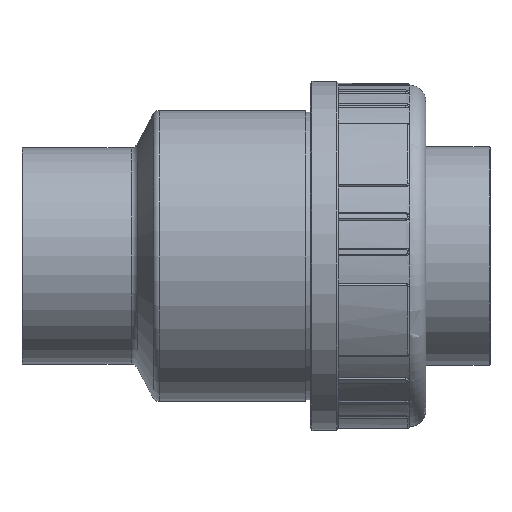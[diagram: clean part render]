
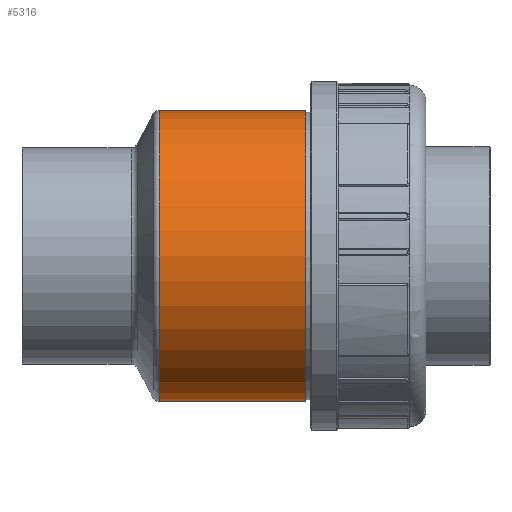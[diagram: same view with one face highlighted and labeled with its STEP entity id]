
A CAD part, left-side view. The second image highlights one B-rep face of the part: STEP entity #5316.
In plain terms, the highlighted cylindrical face has radius 87.5 mm (diameter 175 mm), a full revolution.
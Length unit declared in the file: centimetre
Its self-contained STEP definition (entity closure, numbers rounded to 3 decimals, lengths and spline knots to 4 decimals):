
#221=FACE_BOUND('',#1218,.T.);
#222=FACE_BOUND('',#1219,.T.);
#889=FACE_OUTER_BOUND('',#1217,.T.);
#1217=EDGE_LOOP('',(#3602));
#1218=EDGE_LOOP('',(#3603));
#1219=EDGE_LOOP('',(#3604));
#1526=B_SPLINE_CURVE_WITH_KNOTS('',3,(#8238,#8239,#8240,#8241,#8242,#8243,
#8244,#8245,#8246,#8247,#8248,#8249,#8250,#8251,#8252,#8253,#8254,#8255),
 .UNSPECIFIED.,.T.,.F.,(4,1,1,1,1,1,1,1,1,1,1,1,1,1,1,4),(-14.7908,
-13.7343,-12.6778,-11.6213,-10.5648,
-9.5084,-8.4519,-7.7476,-7.0432,
-6.3389,-4.9303,-4.2259,-3.1695,
-2.113,-1.0565,0.),.UNSPECIFIED.);
#1769=CIRCLE('',#5726,8.75);
#1770=CIRCLE('',#5728,8.75);
#2104=VERTEX_POINT('',#8232);
#2105=VERTEX_POINT('',#8235);
#2106=VERTEX_POINT('',#8237);
#2666=EDGE_CURVE('',#2104,#2104,#1769,.T.);
#2667=EDGE_CURVE('',#2105,#2105,#1770,.T.);
#2668=EDGE_CURVE('',#2106,#2106,#1526,.T.);
#3602=ORIENTED_EDGE('',*,*,#2667,.T.);
#3603=ORIENTED_EDGE('',*,*,#2668,.F.);
#3604=ORIENTED_EDGE('',*,*,#2666,.F.);
#4823=CYLINDRICAL_SURFACE('',#5727,8.75);
#5316=ADVANCED_FACE('',(#889,#221,#222),#4823,.T.);
#5726=AXIS2_PLACEMENT_3D('',#8233,#6507,#6508);
#5727=AXIS2_PLACEMENT_3D('',#8234,#6509,#6510);
#5728=AXIS2_PLACEMENT_3D('',#8236,#6511,#6512);
#6507=DIRECTION('center_axis',(0.,1.,0.));
#6508=DIRECTION('ref_axis',(1.,0.,0.));
#6509=DIRECTION('center_axis',(0.,1.,0.));
#6510=DIRECTION('ref_axis',(-1.,0.,0.));
#6511=DIRECTION('center_axis',(0.,1.,0.));
#6512=DIRECTION('ref_axis',(1.,0.,0.));
#8232=CARTESIAN_POINT('',(-8.75,5.69,0.));
#8233=CARTESIAN_POINT('Origin',(0.,5.69,0.));
#8234=CARTESIAN_POINT('Origin',(0.,1.4,0.));
#8235=CARTESIAN_POINT('',(-8.75,-3.13,0.));
#8236=CARTESIAN_POINT('Origin',(0.,-3.13,0.));
#8237=CARTESIAN_POINT('',(8.3966,0.,2.4616));
#8238=CARTESIAN_POINT('Ctrl Pts',(8.3964,0.,
2.4618));
#8239=CARTESIAN_POINT('Ctrl Pts',(8.3964,-0.3711,2.4618));
#8240=CARTESIAN_POINT('Ctrl Pts',(8.4492,-1.1133,2.2908));
#8241=CARTESIAN_POINT('Ctrl Pts',(8.6202,-1.9944,1.5887));
#8242=CARTESIAN_POINT('Ctrl Pts',(8.7553,-2.4903,0.571));
#8243=CARTESIAN_POINT('Ctrl Pts',(8.7555,-2.4903,-0.571));
#8244=CARTESIAN_POINT('Ctrl Pts',(8.6199,-1.9945,-1.5886));
#8245=CARTESIAN_POINT('Ctrl Pts',(8.4686,-1.2109,-2.2125));
#8246=CARTESIAN_POINT('Ctrl Pts',(8.3941,-0.3758,-2.4708));
#8247=CARTESIAN_POINT('Ctrl Pts',(8.3939,0.3757,-2.4705));
#8248=CARTESIAN_POINT('Ctrl Pts',(8.4796,1.3308,-2.1765));
#8249=CARTESIAN_POINT('Ctrl Pts',(8.643,2.0779,-1.4839));
#8250=CARTESIAN_POINT('Ctrl Pts',(8.7553,2.49,-0.4436));
#8251=CARTESIAN_POINT('Ctrl Pts',(8.7554,2.4906,0.5707));
#8252=CARTESIAN_POINT('Ctrl Pts',(8.62,1.9941,1.5887));
#8253=CARTESIAN_POINT('Ctrl Pts',(8.4493,1.1134,2.2908));
#8254=CARTESIAN_POINT('Ctrl Pts',(8.3965,0.3711,2.4618));
#8255=CARTESIAN_POINT('Ctrl Pts',(8.3964,0.,
2.4618));
